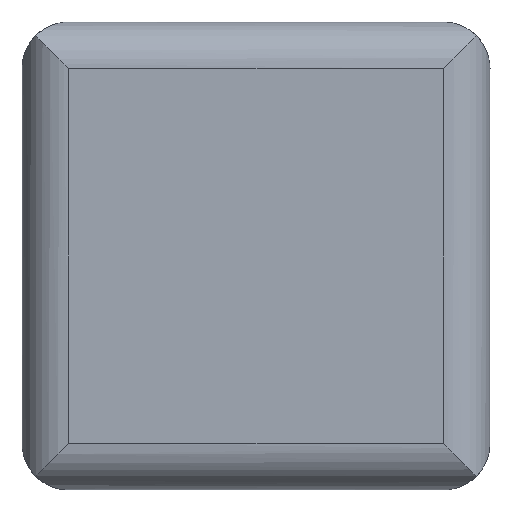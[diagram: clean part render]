
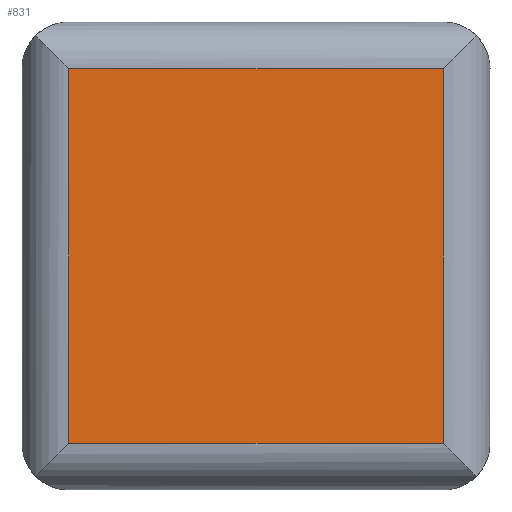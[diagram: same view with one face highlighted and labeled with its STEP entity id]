
A CAD part, front view. The second image highlights one B-rep face of the part: STEP entity #831.
In plain terms, the highlighted planar face has unit normal (0, -1, 0).
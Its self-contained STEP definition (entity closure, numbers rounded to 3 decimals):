
#189 = CYLINDRICAL_SURFACE('',#190,2.);
#190 = AXIS2_PLACEMENT_3D('',#191,#192,#193);
#191 = CARTESIAN_POINT('',(-8.,-0.5,10.));
#192 = DIRECTION('',(0.,0.,-1.));
#193 = DIRECTION('',(-1.,0.,0.));
#284 = CYLINDRICAL_SURFACE('',#285,2.);
#285 = AXIS2_PLACEMENT_3D('',#286,#287,#288);
#286 = CARTESIAN_POINT('',(10.,-0.5,-8.));
#287 = DIRECTION('',(-1.,0.,0.));
#288 = DIRECTION('',(0.,0.,1.));
#457 = CYLINDRICAL_SURFACE('',#458,2.);
#458 = AXIS2_PLACEMENT_3D('',#459,#460,#461);
#459 = CARTESIAN_POINT('',(8.,-0.5,10.));
#460 = DIRECTION('',(0.,0.,-1.));
#461 = DIRECTION('',(-1.,0.,0.));
#630 = CYLINDRICAL_SURFACE('',#631,2.);
#631 = AXIS2_PLACEMENT_3D('',#632,#633,#634);
#632 = CARTESIAN_POINT('',(10.,-0.5,8.));
#633 = DIRECTION('',(-1.,0.,0.));
#634 = DIRECTION('',(0.,0.,1.));
#831 = ADVANCED_FACE('',(#832),#846,.F.);
#832 = FACE_BOUND('',#833,.T.);
#833 = EDGE_LOOP('',(#834,#864,#887,#910));
#834 = ORIENTED_EDGE('',*,*,#835,.F.);
#835 = EDGE_CURVE('',#836,#838,#840,.T.);
#836 = VERTEX_POINT('',#837);
#837 = CARTESIAN_POINT('',(8.,-2.5,8.));
#838 = VERTEX_POINT('',#839);
#839 = CARTESIAN_POINT('',(8.,-2.5,-8.));
#840 = SURFACE_CURVE('',#841,(#845,#857),.PCURVE_S1.);
#841 = LINE('',#842,#843);
#842 = CARTESIAN_POINT('',(8.,-2.5,10.));
#843 = VECTOR('',#844,1.);
#844 = DIRECTION('',(0.,0.,-1.));
#845 = PCURVE('',#846,#851);
#846 = PLANE('',#847);
#847 = AXIS2_PLACEMENT_3D('',#848,#849,#850);
#848 = CARTESIAN_POINT('',(-8.,-2.5,-8.));
#849 = DIRECTION('',(0.,1.,0.));
#850 = DIRECTION('',(0.,0.,1.));
#851 = DEFINITIONAL_REPRESENTATION('',(#852),#856);
#852 = LINE('',#853,#854);
#853 = CARTESIAN_POINT('',(18.,16.));
#854 = VECTOR('',#855,1.);
#855 = DIRECTION('',(-1.,0.));
#856 = ( GEOMETRIC_REPRESENTATION_CONTEXT(2) 
PARAMETRIC_REPRESENTATION_CONTEXT() REPRESENTATION_CONTEXT('2D SPACE',''
  ) );
#857 = PCURVE('',#457,#858);
#858 = DEFINITIONAL_REPRESENTATION('',(#859),#863);
#859 = LINE('',#860,#861);
#860 = CARTESIAN_POINT('',(4.712,0.));
#861 = VECTOR('',#862,1.);
#862 = DIRECTION('',(0.,1.));
#863 = ( GEOMETRIC_REPRESENTATION_CONTEXT(2) 
PARAMETRIC_REPRESENTATION_CONTEXT() REPRESENTATION_CONTEXT('2D SPACE',''
  ) );
#864 = ORIENTED_EDGE('',*,*,#865,.T.);
#865 = EDGE_CURVE('',#836,#866,#868,.T.);
#866 = VERTEX_POINT('',#867);
#867 = CARTESIAN_POINT('',(-8.,-2.5,8.));
#868 = SURFACE_CURVE('',#869,(#873,#880),.PCURVE_S1.);
#869 = LINE('',#870,#871);
#870 = CARTESIAN_POINT('',(10.,-2.5,8.));
#871 = VECTOR('',#872,1.);
#872 = DIRECTION('',(-1.,0.,0.));
#873 = PCURVE('',#846,#874);
#874 = DEFINITIONAL_REPRESENTATION('',(#875),#879);
#875 = LINE('',#876,#877);
#876 = CARTESIAN_POINT('',(16.,18.));
#877 = VECTOR('',#878,1.);
#878 = DIRECTION('',(0.,-1.));
#879 = ( GEOMETRIC_REPRESENTATION_CONTEXT(2) 
PARAMETRIC_REPRESENTATION_CONTEXT() REPRESENTATION_CONTEXT('2D SPACE',''
  ) );
#880 = PCURVE('',#630,#881);
#881 = DEFINITIONAL_REPRESENTATION('',(#882),#886);
#882 = LINE('',#883,#884);
#883 = CARTESIAN_POINT('',(4.712,0.));
#884 = VECTOR('',#885,1.);
#885 = DIRECTION('',(0.,1.));
#886 = ( GEOMETRIC_REPRESENTATION_CONTEXT(2) 
PARAMETRIC_REPRESENTATION_CONTEXT() REPRESENTATION_CONTEXT('2D SPACE',''
  ) );
#887 = ORIENTED_EDGE('',*,*,#888,.T.);
#888 = EDGE_CURVE('',#866,#889,#891,.T.);
#889 = VERTEX_POINT('',#890);
#890 = CARTESIAN_POINT('',(-8.,-2.5,-8.));
#891 = SURFACE_CURVE('',#892,(#896,#903),.PCURVE_S1.);
#892 = LINE('',#893,#894);
#893 = CARTESIAN_POINT('',(-8.,-2.5,10.));
#894 = VECTOR('',#895,1.);
#895 = DIRECTION('',(0.,0.,-1.));
#896 = PCURVE('',#846,#897);
#897 = DEFINITIONAL_REPRESENTATION('',(#898),#902);
#898 = LINE('',#899,#900);
#899 = CARTESIAN_POINT('',(18.,0.));
#900 = VECTOR('',#901,1.);
#901 = DIRECTION('',(-1.,0.));
#902 = ( GEOMETRIC_REPRESENTATION_CONTEXT(2) 
PARAMETRIC_REPRESENTATION_CONTEXT() REPRESENTATION_CONTEXT('2D SPACE',''
  ) );
#903 = PCURVE('',#189,#904);
#904 = DEFINITIONAL_REPRESENTATION('',(#905),#909);
#905 = LINE('',#906,#907);
#906 = CARTESIAN_POINT('',(4.712,0.));
#907 = VECTOR('',#908,1.);
#908 = DIRECTION('',(0.,1.));
#909 = ( GEOMETRIC_REPRESENTATION_CONTEXT(2) 
PARAMETRIC_REPRESENTATION_CONTEXT() REPRESENTATION_CONTEXT('2D SPACE',''
  ) );
#910 = ORIENTED_EDGE('',*,*,#911,.F.);
#911 = EDGE_CURVE('',#838,#889,#912,.T.);
#912 = SURFACE_CURVE('',#913,(#917,#924),.PCURVE_S1.);
#913 = LINE('',#914,#915);
#914 = CARTESIAN_POINT('',(10.,-2.5,-8.));
#915 = VECTOR('',#916,1.);
#916 = DIRECTION('',(-1.,0.,0.));
#917 = PCURVE('',#846,#918);
#918 = DEFINITIONAL_REPRESENTATION('',(#919),#923);
#919 = LINE('',#920,#921);
#920 = CARTESIAN_POINT('',(0.,18.));
#921 = VECTOR('',#922,1.);
#922 = DIRECTION('',(0.,-1.));
#923 = ( GEOMETRIC_REPRESENTATION_CONTEXT(2) 
PARAMETRIC_REPRESENTATION_CONTEXT() REPRESENTATION_CONTEXT('2D SPACE',''
  ) );
#924 = PCURVE('',#284,#925);
#925 = DEFINITIONAL_REPRESENTATION('',(#926),#930);
#926 = LINE('',#927,#928);
#927 = CARTESIAN_POINT('',(4.712,0.));
#928 = VECTOR('',#929,1.);
#929 = DIRECTION('',(0.,1.));
#930 = ( GEOMETRIC_REPRESENTATION_CONTEXT(2) 
PARAMETRIC_REPRESENTATION_CONTEXT() REPRESENTATION_CONTEXT('2D SPACE',''
  ) );
